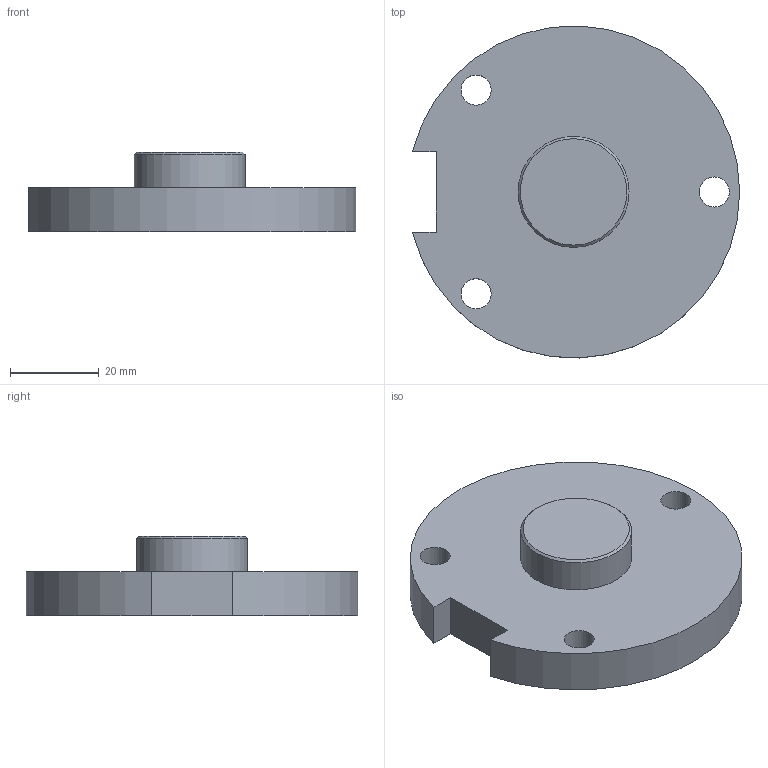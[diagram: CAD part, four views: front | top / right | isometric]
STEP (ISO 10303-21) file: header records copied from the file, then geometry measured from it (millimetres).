
FILE_DESCRIPTION(/* description */ ('STEP AP242 Edition 2','CAx-IF Rec.Pracs.---Representation and Presentation of Product Manufacturing Information (PMI)---4.0---2014-10-13','CAx-IF Rec.Pracs.---3D Tessellated Geometry---0.4---2014-09-14','2;1','CAx-IF Rec.Pracs.---User Defined Attributes---1.5---2016-08-15'),/* implementation_level */ '2;1');
FILE_NAME(/* name */ 'Part Studio 1',/* time_stamp */ '2026-07-21T06:04:55Z',/* author */ (''),/* organization */ (''),/* preprocessor_version */ 'ST-DEVELOPER v20',/* originating_system */ 'ONSHAPE BY PTC INC, 1.218',/* authorisation */ ' ');
FILE_SCHEMA (('AP242_MANAGED_MODEL_BASED_3D_ENGINEERING_MIM_LF { 1 0 10303 442 3 1 4 }'));
Length unit declared in the file: metre
Products named in the file (1): Part 1
Bounding box: 73.89 x 74.95 x 18 mm (x, y, z)
Volume: 45912.1 mm3; surface area: 12105.1 mm2
Topology: 1 solids, 1 shells, 12 faces, 26 edges, 17 vertices
Faces by surface type: plane 6, cylinder 5, cone 1
Full cylindrical faces by diameter (mm): 6.8 x3, 25.05 x1
Entity records: 342 total; most frequent: DIRECTION 58, CARTESIAN_POINT 51, ORIENTED_EDGE 42, EDGE_LOOP 24, FACE_BOUND 24, AXIS2_PLACEMENT_3D 24, EDGE_CURVE 21, VERTEX_POINT 17
